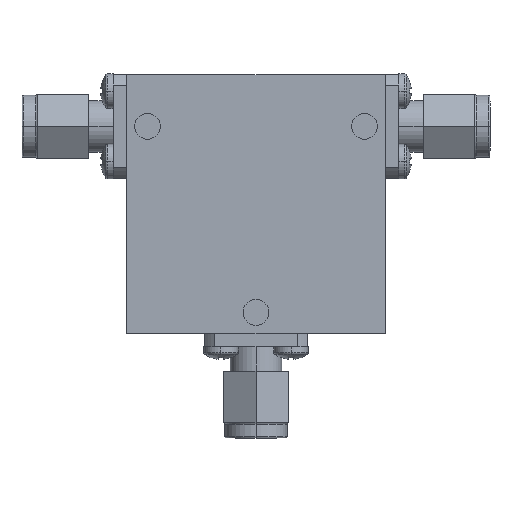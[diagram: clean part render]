
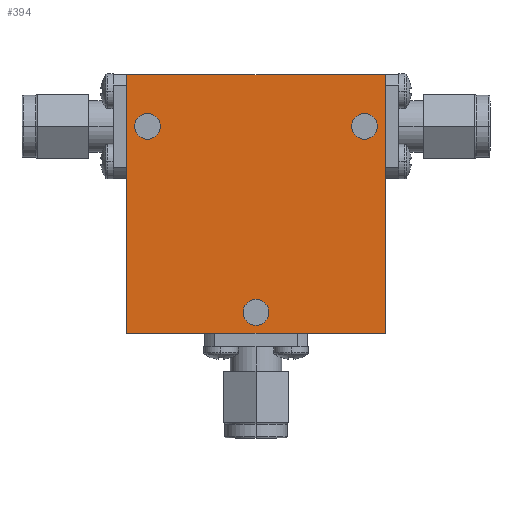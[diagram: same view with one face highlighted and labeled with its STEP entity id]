
A CAD part, top view. The second image highlights one B-rep face of the part: STEP entity #394.
In plain terms, the highlighted planar face has unit normal (0, 0, 1).
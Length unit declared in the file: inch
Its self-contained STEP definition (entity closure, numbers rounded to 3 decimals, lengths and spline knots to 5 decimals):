
#36 = ORIENTED_EDGE ( 'NONE', *, *, #118, .T. ) ;
#43 = CARTESIAN_POINT ( 'NONE',  ( 0.525, 0.375, 0.35 ) ) ;
#64 = CARTESIAN_POINT ( 'NONE',  ( -0.625, 0.625, 0.35 ) ) ;
#118 = EDGE_CURVE ( 'NONE', #681, #260, #1767, .T. ) ;
#188 = DIRECTION ( 'NONE',  ( 1., 0., 0. ) ) ;
#211 = LINE ( 'NONE', #1415, #2419 ) ;
#221 = DIRECTION ( 'NONE',  ( 1., 0., 0. ) ) ;
#260 = VERTEX_POINT ( 'NONE', #921 ) ;
#394 = ADVANCED_FACE ( 'NONE', ( #2086, #2277, #706, #3263 ), #1667, .T. ) ;
#400 = CARTESIAN_POINT ( 'NONE',  ( 0.0625, -0.525, 0.35 ) ) ;
#449 = ORIENTED_EDGE ( 'NONE', *, *, #2194, .T. ) ;
#481 = CIRCLE ( 'NONE', #1224, 0.0625 ) ;
#504 = DIRECTION ( 'NONE',  ( 1., 0., 0. ) ) ;
#528 = CARTESIAN_POINT ( 'NONE',  ( -0.525, 0.375, 0.35 ) ) ;
#557 = EDGE_LOOP ( 'NONE', ( #2263, #1437 ) ) ;
#576 = CARTESIAN_POINT ( 'NONE',  ( 0.625, 0.625, 0.35 ) ) ;
#610 = AXIS2_PLACEMENT_3D ( 'NONE', #3300, #1250, #221 ) ;
#652 = AXIS2_PLACEMENT_3D ( 'NONE', #1940, #1487, #188 ) ;
#681 = VERTEX_POINT ( 'NONE', #806 ) ;
#706 = FACE_BOUND ( 'NONE', #1271, .T. ) ;
#719 = VERTEX_POINT ( 'NONE', #400 ) ;
#735 = DIRECTION ( 'NONE',  ( 1., 0., 0. ) ) ;
#806 = CARTESIAN_POINT ( 'NONE',  ( 0.625, -0.625, 0.35 ) ) ;
#904 = AXIS2_PLACEMENT_3D ( 'NONE', #3053, #3288, #2057 ) ;
#921 = CARTESIAN_POINT ( 'NONE',  ( 0.625, 0.625, 0.35 ) ) ;
#961 = EDGE_CURVE ( 'NONE', #2281, #2095, #2355, .T. ) ;
#1044 = DIRECTION ( 'NONE',  ( 1., 0., 0. ) ) ;
#1055 = CARTESIAN_POINT ( 'NONE',  ( 0.4625, 0.375, 0.35 ) ) ;
#1202 = DIRECTION ( 'NONE',  ( 1., 0., 0. ) ) ;
#1210 = VECTOR ( 'NONE', #2653, 39.37008 ) ;
#1224 = AXIS2_PLACEMENT_3D ( 'NONE', #2026, #1516, #504 ) ;
#1250 = DIRECTION ( 'NONE',  ( 0., 0., 1. ) ) ;
#1258 = CARTESIAN_POINT ( 'NONE',  ( -0.0625, -0.525, 0.35 ) ) ;
#1271 = EDGE_LOOP ( 'NONE', ( #1591, #1616 ) ) ;
#1298 = EDGE_CURVE ( 'NONE', #1855, #681, #211, .T. ) ;
#1415 = CARTESIAN_POINT ( 'NONE',  ( -0.625, -0.625, 0.35 ) ) ;
#1437 = ORIENTED_EDGE ( 'NONE', *, *, #2516, .F. ) ;
#1487 = DIRECTION ( 'NONE',  ( 0., 0., 1. ) ) ;
#1516 = DIRECTION ( 'NONE',  ( 0., 0., 1. ) ) ;
#1525 = ORIENTED_EDGE ( 'NONE', *, *, #1298, .T. ) ;
#1536 = CIRCLE ( 'NONE', #2278, 0.0625 ) ;
#1576 = LINE ( 'NONE', #1976, #2612 ) ;
#1581 = DIRECTION ( 'NONE',  ( 1., 0., 0. ) ) ;
#1591 = ORIENTED_EDGE ( 'NONE', *, *, #961, .F. ) ;
#1601 = VERTEX_POINT ( 'NONE', #1790 ) ;
#1616 = ORIENTED_EDGE ( 'NONE', *, *, #1714, .F. ) ;
#1621 = CIRCLE ( 'NONE', #2294, 0.0625 ) ;
#1649 = EDGE_LOOP ( 'NONE', ( #2870, #2144 ) ) ;
#1667 = PLANE ( 'NONE',  #652 ) ;
#1714 = EDGE_CURVE ( 'NONE', #2095, #2281, #1621, .T. ) ;
#1724 = ORIENTED_EDGE ( 'NONE', *, *, #2395, .T. ) ;
#1759 = VERTEX_POINT ( 'NONE', #1055 ) ;
#1767 = LINE ( 'NONE', #576, #2882 ) ;
#1790 = CARTESIAN_POINT ( 'NONE',  ( -0.625, 0.625, 0.35 ) ) ;
#1802 = EDGE_CURVE ( 'NONE', #2601, #1759, #1536, .T. ) ;
#1855 = VERTEX_POINT ( 'NONE', #2887 ) ;
#1940 = CARTESIAN_POINT ( 'NONE',  ( 0., 0., 0.35 ) ) ;
#1950 = EDGE_CURVE ( 'NONE', #2636, #719, #3019, .T. ) ;
#1956 = EDGE_CURVE ( 'NONE', #719, #2636, #2730, .T. ) ;
#1976 = CARTESIAN_POINT ( 'NONE',  ( -0.625, 0.625, 0.35 ) ) ;
#2026 = CARTESIAN_POINT ( 'NONE',  ( 0.525, 0.375, 0.35 ) ) ;
#2057 = DIRECTION ( 'NONE',  ( 1., 0., 0. ) ) ;
#2063 = CARTESIAN_POINT ( 'NONE',  ( 0.5875, 0.375, 0.35 ) ) ;
#2086 = FACE_BOUND ( 'NONE', #557, .T. ) ;
#2095 = VERTEX_POINT ( 'NONE', #2594 ) ;
#2119 = DIRECTION ( 'NONE',  ( 0., 1., 0. ) ) ;
#2144 = ORIENTED_EDGE ( 'NONE', *, *, #1950, .F. ) ;
#2179 = CARTESIAN_POINT ( 'NONE',  ( -0.4625, 0.375, 0.35 ) ) ;
#2194 = EDGE_CURVE ( 'NONE', #260, #1601, #2228, .T. ) ;
#2228 = LINE ( 'NONE', #64, #1210 ) ;
#2263 = ORIENTED_EDGE ( 'NONE', *, *, #1802, .F. ) ;
#2277 = FACE_BOUND ( 'NONE', #1649, .T. ) ;
#2278 = AXIS2_PLACEMENT_3D ( 'NONE', #43, #2598, #1581 ) ;
#2281 = VERTEX_POINT ( 'NONE', #2179 ) ;
#2294 = AXIS2_PLACEMENT_3D ( 'NONE', #528, #2330, #1044 ) ;
#2330 = DIRECTION ( 'NONE',  ( 0., 0., 1. ) ) ;
#2355 = CIRCLE ( 'NONE', #2417, 0.0625 ) ;
#2395 = EDGE_CURVE ( 'NONE', #1601, #1855, #1576, .T. ) ;
#2417 = AXIS2_PLACEMENT_3D ( 'NONE', #3002, #2488, #735 ) ;
#2419 = VECTOR ( 'NONE', #1202, 39.37008 ) ;
#2488 = DIRECTION ( 'NONE',  ( 0., 0., 1. ) ) ;
#2516 = EDGE_CURVE ( 'NONE', #1759, #2601, #481, .T. ) ;
#2539 = EDGE_LOOP ( 'NONE', ( #36, #449, #1724, #1525 ) ) ;
#2594 = CARTESIAN_POINT ( 'NONE',  ( -0.5875, 0.375, 0.35 ) ) ;
#2598 = DIRECTION ( 'NONE',  ( 0., 0., 1. ) ) ;
#2601 = VERTEX_POINT ( 'NONE', #2063 ) ;
#2612 = VECTOR ( 'NONE', #3242, 39.37008 ) ;
#2636 = VERTEX_POINT ( 'NONE', #1258 ) ;
#2653 = DIRECTION ( 'NONE',  ( -1., 0., 0. ) ) ;
#2730 = CIRCLE ( 'NONE', #904, 0.0625 ) ;
#2870 = ORIENTED_EDGE ( 'NONE', *, *, #1956, .F. ) ;
#2882 = VECTOR ( 'NONE', #2119, 39.37008 ) ;
#2887 = CARTESIAN_POINT ( 'NONE',  ( -0.625, -0.625, 0.35 ) ) ;
#3002 = CARTESIAN_POINT ( 'NONE',  ( -0.525, 0.375, 0.35 ) ) ;
#3019 = CIRCLE ( 'NONE', #610, 0.0625 ) ;
#3053 = CARTESIAN_POINT ( 'NONE',  ( 0., -0.525, 0.35 ) ) ;
#3242 = DIRECTION ( 'NONE',  ( 0., -1., 0. ) ) ;
#3263 = FACE_OUTER_BOUND ( 'NONE', #2539, .T. ) ;
#3288 = DIRECTION ( 'NONE',  ( 0., 0., 1. ) ) ;
#3300 = CARTESIAN_POINT ( 'NONE',  ( 0., -0.525, 0.35 ) ) ;
